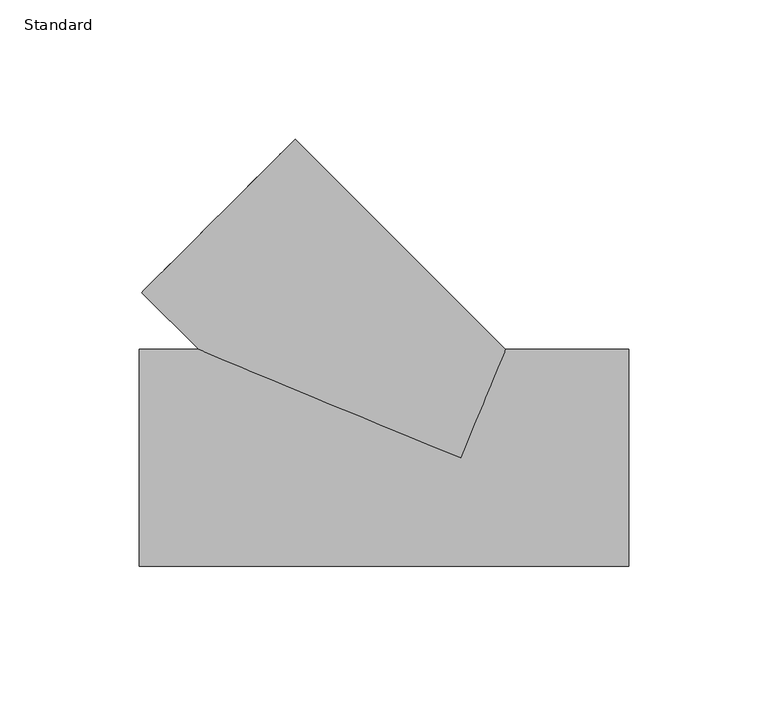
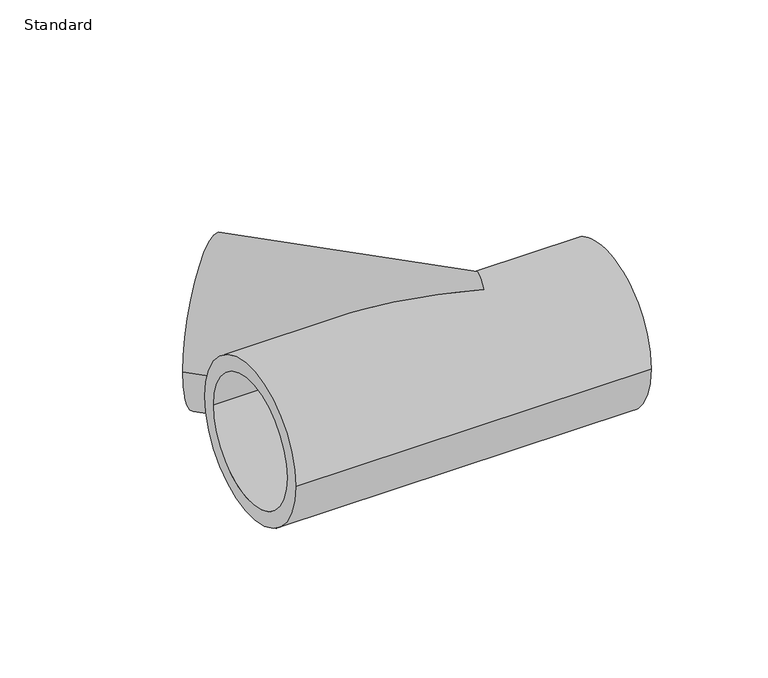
"""IFC4 building model written with IfcOpenShell, lengths in millimetres: pipe fitting geometry, Durapipe_PipeFitting_PVC_Tee45deg : Standard."""

from ifc_helpers import new_model, si_unit, frame, origin, place, context, project, spatial, polyline, circle_curve, ellipse_curve, source, transform, mapped, element, save
from ifc_brep_helpers import plane_surface, cylinder_surface, revolved_surface, advanced_brep


def standard_748e5fda(model_context):
    return source(origin(), model_context, "Body", "AdvancedBrep", [
        advanced_brep(
        [(-114.5512986, 59.3969696, 0.0), (-59.3969696, 114.5512986, 0.0), (-109.2479977, 64.7002705, 0.0), (-64.7002705, 109.2479977, 0.0), (-94.1543289, 39.0, 0.0), (0.0, 0.0, 39.0), (16.1543289, 39.0, 0.0), (0.0, 0.0, -39.0), (-115.5, -39.0, 0.0), (-115.5, 39.0, 0.0), (-115.5, -31.5, 0.0), (-115.5, 31.5, 0.0), (60.5, -39.0, 0.0), (60.5, 39.0, 0.0), (60.5, 31.5, 0.0), (60.5, -31.5, 0.0), (-60.1040764, 60.1040764, 0.0), (-37.8302128, 82.37794, 0.0), (-82.37794, 37.8302128, 0.0), (-70.0, -31.5, 0.0), (-70.0, 0.0, 0.0), (-70.0, 31.5, 0.0), (15.0, -31.5, 0.0), (15.0, 31.5, 0.0), (15.0, 0.0, 0.0)],
        [
            (0, 1, circle_curve(frame((-86.9741341, 86.9741341, 0.0), z_axis=(-0.7071067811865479, 0.7071067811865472, 0.0), x_axis=(0.7071067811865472, 0.7071067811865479, 0.0)), 39.0)),
            (1, 0, circle_curve(frame((-86.9741341, 86.9741341, 0.0), z_axis=(-0.7071067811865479, 0.7071067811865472, 0.0), x_axis=(0.7071067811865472, 0.7071067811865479, 0.0)), 39.0)),
            (2, 3, circle_curve(frame((-86.9741341, 86.9741341, 0.0), z_axis=(0.7071067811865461, -0.707106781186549, 0.0), x_axis=(-0.7071067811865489, -0.707106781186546, 0.0)), 31.5)),
            (3, 2, circle_curve(frame((-86.9741341, 86.9741341, 0.0), z_axis=(0.7071067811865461, -0.707106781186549, 0.0), x_axis=(-0.7071067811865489, -0.707106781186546, 0.0)), 31.5)),
            (0, 4),
            (4, 5, ellipse_curve(frame((0.0, 0.0, 0.0), z_axis=(0.3826834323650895, 0.9238795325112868, 0.0), x_axis=(-0.9238795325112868, 0.3826834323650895, 0.0)), 101.9119113, 39.0)),
            (5, 6, ellipse_curve(frame((0.0, 0.0, 0.0), z_axis=(-0.9238795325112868, 0.38268343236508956, 0.0), x_axis=(0.3826834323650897, 0.9238795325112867, 0.0)), 42.2132958, 39.0)),
            (6, 1),
            (6, 7, ellipse_curve(frame((0.0, 0.0, 0.0), z_axis=(-0.9238795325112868, 0.38268343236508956, 0.0), x_axis=(0.3826834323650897, 0.9238795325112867, 0.0)), 42.2132958, 39.0)),
            (7, 4, ellipse_curve(frame((0.0, 0.0, 0.0), z_axis=(0.3826834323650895, 0.9238795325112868, 0.0), x_axis=(-0.9238795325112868, 0.3826834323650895, 0.0)), 101.9119113, 39.0)),
            (8, 9, circle_curve(frame((-115.5, 0.0, 0.0), z_axis=(-1.0, 0.0, 0.0), x_axis=(0.0, 1.0, 0.0)), 39.0)),
            (9, 8, circle_curve(frame((-115.5, 0.0, 0.0), z_axis=(-1.0, 0.0, 0.0), x_axis=(0.0, 1.0, 0.0)), 39.0)),
            (10, 11, circle_curve(frame((-115.5, 0.0, 0.0), z_axis=(1.0, 0.0, 0.0), x_axis=(0.0, 1.0, 0.0)), 31.5)),
            (11, 10, circle_curve(frame((-115.5, 0.0, 0.0), z_axis=(1.0, 0.0, 0.0), x_axis=(0.0, 1.0, 0.0)), 31.5)),
            (12, 13, circle_curve(frame((60.5, 0.0, 0.0), z_axis=(1.0, 0.0, 0.0), x_axis=(0.0, 1.0, 0.0)), 39.0)),
            (13, 12, circle_curve(frame((60.5, 0.0, 0.0), z_axis=(1.0, 0.0, 0.0), x_axis=(0.0, 1.0, 0.0)), 39.0)),
            (14, 15, circle_curve(frame((60.5, 0.0, 0.0), z_axis=(-1.0, 0.0, 0.0), x_axis=(0.0, 1.0, 0.0)), 31.5)),
            (15, 14, circle_curve(frame((60.5, 0.0, 0.0), z_axis=(-1.0, 0.0, 0.0), x_axis=(0.0, 1.0, 0.0)), 31.5)),
            (8, 12),
            (13, 6),
            (4, 9),
            (16, 17),
            (17, 18, circle_curve(frame((-60.1040764, 60.1040764, 0.0), z_axis=(-0.7071067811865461, 0.707106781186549, 0.0), x_axis=(-0.7071067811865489, -0.707106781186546, 0.0)), 31.5)),
            (18, 16),
            (18, 17, circle_curve(frame((-60.1040764, 60.1040764, 0.0), z_axis=(-0.7071067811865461, 0.707106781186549, 0.0), x_axis=(-0.7071067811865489, -0.707106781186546, 0.0)), 31.5)),
            (17, 3),
            (2, 18),
            (19, 20),
            (20, 21),
            (21, 19, circle_curve(frame((-70.0, 0.0, 0.0), z_axis=(-1.0, 0.0, 0.0), x_axis=(0.0, 1.0, 0.0)), 31.5)),
            (19, 21, circle_curve(frame((-70.0, 0.0, 0.0), z_axis=(-1.0, 0.0, 0.0), x_axis=(0.0, 1.0, 0.0)), 31.5)),
            (21, 11),
            (10, 19),
            (22, 15),
            (14, 23),
            (23, 22, circle_curve(frame((15.0, 0.0, 0.0), z_axis=(-1.0, 0.0, 0.0), x_axis=(0.0, 1.0, 0.0)), 31.5)),
            (22, 23, circle_curve(frame((15.0, 0.0, 0.0), z_axis=(-1.0, 0.0, 0.0), x_axis=(0.0, 1.0, 0.0)), 31.5)),
            (23, 24),
            (24, 22),
        ],
        [
            plane_surface(frame((-86.9741341, 86.9741341, 0.0), z_axis=(-0.7071067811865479, 0.7071067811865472, 0.0), x_axis=(0.0, 0.0, 1.0))),
            cylinder_surface(frame((-86.9741341, 86.9741341, 0.0), z_axis=(-0.7071067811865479, 0.7071067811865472, 0.0), x_axis=(0.7071067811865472, 0.7071067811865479, 0.0)), 39.0),
            plane_surface(frame((-115.5, 0.0, 0.0), z_axis=(-1.0, 0.0, 0.0), x_axis=(0.0, 0.0, 1.0))),
            plane_surface(frame((60.5, 0.0, 0.0), z_axis=(1.0, 0.0, 0.0), x_axis=(0.0, 0.0, 1.0))),
            cylinder_surface(frame((-115.5, 0.0, 0.0), z_axis=(-1.0, 0.0, 0.0), x_axis=(0.0, 1.0, 0.0)), 39.0),
            plane_surface(frame((-60.1040764, 60.1040764, 0.0), z_axis=(-0.7071067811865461, 0.707106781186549, 0.0), x_axis=(-0.707106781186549, -0.7071067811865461, 0.0))),
            revolved_surface(polyline([(-82.37794000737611, 37.83021279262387, 0.0), (-109.24799770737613, 64.700270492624, 0.0)]), (0.0, 0.0, 0.0), (0.707106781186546, -0.7071067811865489, 0.0)),
            plane_surface(frame((-70.0, 0.0, 0.0), z_axis=(-1.0, 0.0, 0.0), x_axis=(0.0, 1.0, 0.0))),
            revolved_surface(polyline([(-115.5, 31.5, 0.0), (-70.0, 31.5, 0.0)]), (2036.5, 0.0, 0.0), (-1.0, 0.0, 0.0)),
            revolved_surface(polyline([(15.0, 31.5, 0.0), (60.5, 31.5, 0.0)]), (2005.5, 0.0, 0.0), (-1.0, 0.0, 0.0)),
            plane_surface(frame((15.0, 0.0, 0.0), z_axis=(1.0, 0.0, 0.0), x_axis=(0.0, 1.0, 0.0))),
        ],
        [
            (0, [[1, 2], [3, 4]]),
            (1, [[-1, 5, 6, 7, 8]]),
            (1, [[-2, -8, 9, 10, -5]]),
            (2, [[11, 12], [13, 14]]),
            (3, [[15, 16], [17, 18]]),
            (4, [[-11, 19, -16, 20, -7, -6, 21]]),
            (4, [[-12, -21, -10, -9, -20, -15, -19]]),
            (5, [[22, 23, 24]]),
            (5, [[-22, -24, 25]]),
            (6, [[-23, 26, -3, 27]]),
            (6, [[-25, -27, -4, -26]]),
            (7, [[28, 29, 30]]),
            (7, [[-28, 31, -29]]),
            (8, [[-30, 32, -13, 33]]),
            (8, [[-31, -33, -14, -32]]),
            (9, [[34, -17, 35, 36]]),
            (9, [[-34, 37, -35, -18]]),
            (10, [[-36, 38, 39]]),
            (10, [[-37, -39, -38]]),
        ],
    ),
    ])


if __name__ == "__main__":
    model = new_model("IFC4")
    model_context = context("Model", 3, world=origin())
    ifc_project = project(units=[si_unit("LENGTHUNIT", "METRE", prefix="MILLI")], contexts=[model_context])
    site = spatial("IfcSite", under=ifc_project)
    building = spatial("IfcBuilding", under=site)
    placement = place(None, origin())
    standard_shape = standard_748e5fda(model_context)
    element("IfcPipeFitting", 1, ObjectType="Durapipe_PipeFitting_PVC_Tee45deg : Standard", at=placement, inside=building, context=model_context, shape_type="MappedRepresentation", body=[
        mapped(standard_shape, transform((0.0, 0.0, 0.0), x_axis=(1.0, 0.0, 0.0), y_axis=(0.0, 1.0, 0.0), z_axis=(0.0, 0.0, 1.0))),
    ])
    save(model, "model.ifc")
